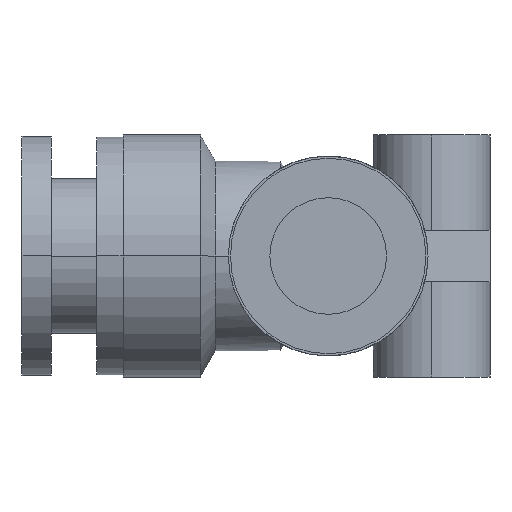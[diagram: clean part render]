
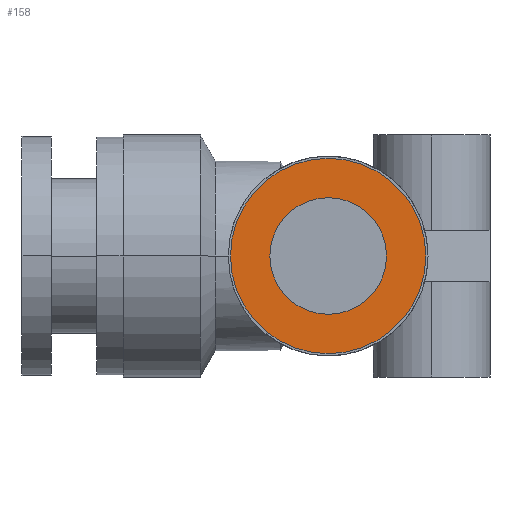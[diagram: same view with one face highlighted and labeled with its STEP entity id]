
A CAD part, left-side view. The second image highlights one B-rep face of the part: STEP entity #158.
In plain terms, the highlighted planar face has unit normal (-1, 0, 0).
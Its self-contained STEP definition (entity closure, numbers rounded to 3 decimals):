
#158 = ADVANCED_FACE( '', ( #339, #340 ), #341, .T. );
#339 = FACE_BOUND( '', #521, .T. );
#340 = FACE_OUTER_BOUND( '', #522, .T. );
#341 = PLANE( '', #523 );
#521 = EDGE_LOOP( '', ( #1165, #1166 ) );
#522 = EDGE_LOOP( '', ( #1167, #1168 ) );
#523 = AXIS2_PLACEMENT_3D( '', #1169, #1170, #1171 );
#1165 = ORIENTED_EDGE( '', *, *, #1275, .T. );
#1166 = ORIENTED_EDGE( '', *, *, #1265, .T. );
#1167 = ORIENTED_EDGE( '', *, *, #1175, .T. );
#1168 = ORIENTED_EDGE( '', *, *, #1369, .T. );
#1169 = CARTESIAN_POINT( '', ( -21.2, 3.35, 0. ) );
#1170 = DIRECTION( '', ( -1., 0., 0. ) );
#1171 = DIRECTION( '', ( 0., 1., 0. ) );
#1175 = EDGE_CURVE( '', #1371, #1375, #1377, .T. );
#1265 = EDGE_CURVE( '', #1549, #1546, #1550, .T. );
#1275 = EDGE_CURVE( '', #1546, #1549, #1565, .T. );
#1369 = EDGE_CURVE( '', #1375, #1371, #1695, .T. );
#1371 = VERTEX_POINT( '', #1697 );
#1375 = VERTEX_POINT( '', #1702 );
#1377 = CIRCLE( '', #1705, 6.7 );
#1546 = VERTEX_POINT( '', #1982 );
#1549 = VERTEX_POINT( '', #1986 );
#1550 = CIRCLE( '', #1987, 4. );
#1565 = CIRCLE( '', #2005, 4. );
#1695 = CIRCLE( '', #2391, 6.7 );
#1697 = CARTESIAN_POINT( '', ( -21.2, 6.7, 0. ) );
#1702 = CARTESIAN_POINT( '', ( -21.2, -6.7, 0. ) );
#1705 = AXIS2_PLACEMENT_3D( '', #2397, #2398, #2399 );
#1982 = CARTESIAN_POINT( '', ( -21.2, 4., 0. ) );
#1986 = CARTESIAN_POINT( '', ( -21.2, -4., 0. ) );
#1987 = AXIS2_PLACEMENT_3D( '', #2563, #2564, #2565 );
#2005 = AXIS2_PLACEMENT_3D( '', #2587, #2588, #2589 );
#2391 = AXIS2_PLACEMENT_3D( '', #2755, #2756, #2757 );
#2397 = CARTESIAN_POINT( '', ( -21.2, 0., 0. ) );
#2398 = DIRECTION( '', ( -1., 0., 0. ) );
#2399 = DIRECTION( '', ( 0., 1., 0. ) );
#2563 = CARTESIAN_POINT( '', ( -21.2, 0., 0. ) );
#2564 = DIRECTION( '', ( 1., 0., 0. ) );
#2565 = DIRECTION( '', ( 0., 1., 0. ) );
#2587 = CARTESIAN_POINT( '', ( -21.2, 0., 0. ) );
#2588 = DIRECTION( '', ( 1., 0., 0. ) );
#2589 = DIRECTION( '', ( 0., 1., 0. ) );
#2755 = CARTESIAN_POINT( '', ( -21.2, 0., 0. ) );
#2756 = DIRECTION( '', ( -1., 0., 0. ) );
#2757 = DIRECTION( '', ( 0., 1., 0. ) );
